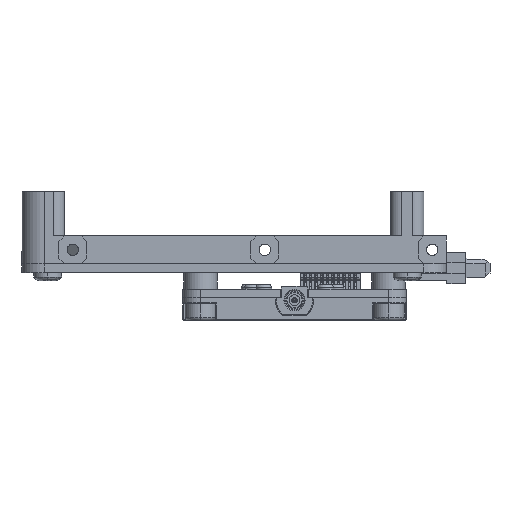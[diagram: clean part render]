
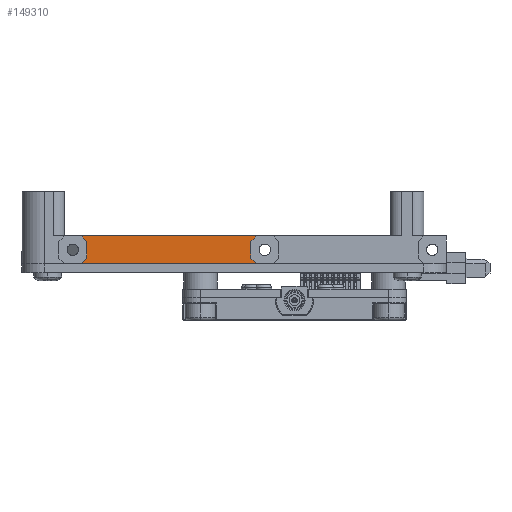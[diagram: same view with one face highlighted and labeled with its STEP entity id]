
A CAD part, left-side view. The second image highlights one B-rep face of the part: STEP entity #149310.
In plain terms, the highlighted planar face has unit normal (-1, 0, 0).
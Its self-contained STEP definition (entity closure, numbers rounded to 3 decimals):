
#2304 = PLANE ( 'NONE',  #277292 ) ;
#4595 = DIRECTION ( 'NONE',  ( 0., -0.707, -0.707 ) ) ;
#8117 = CARTESIAN_POINT ( 'NONE',  ( 0., 4.5, -30. ) ) ;
#8137 = EDGE_CURVE ( 'NONE', #224062, #128472, #215679, .T. ) ;
#28014 = VERTEX_POINT ( 'NONE', #8117 ) ;
#33194 = LINE ( 'NONE', #266915, #241473 ) ;
#40135 = DIRECTION ( 'NONE',  ( 0., -1., 0. ) ) ;
#43714 = CARTESIAN_POINT ( 'NONE',  ( 0., 3.5, -31. ) ) ;
#46805 = CARTESIAN_POINT ( 'NONE',  ( 0., 0.5, -60.4 ) ) ;
#57274 = EDGE_CURVE ( 'NONE', #77213, #224062, #79603, .T. ) ;
#60526 = CARTESIAN_POINT ( 'NONE',  ( 0., 0.5, -31. ) ) ;
#61092 = VECTOR ( 'NONE', #40135, 1000. ) ;
#69788 = DIRECTION ( 'NONE',  ( 0., 0., 1. ) ) ;
#77213 = VERTEX_POINT ( 'NONE', #253280 ) ;
#79603 = LINE ( 'NONE', #190762, #61092 ) ;
#82155 = ORIENTED_EDGE ( 'NONE', *, *, #247453, .F. ) ;
#85602 = VERTEX_POINT ( 'NONE', #141538 ) ;
#86167 = ORIENTED_EDGE ( 'NONE', *, *, #8137, .T. ) ;
#88993 = CARTESIAN_POINT ( 'NONE',  ( 0., 0.5, -60.4 ) ) ;
#90146 = EDGE_CURVE ( 'NONE', #172430, #138492, #274386, .T. ) ;
#96490 = DIRECTION ( 'NONE',  ( 0., -0.707, 0.707 ) ) ;
#99801 = CARTESIAN_POINT ( 'NONE',  ( 0., 0., -31. ) ) ;
#107008 = ORIENTED_EDGE ( 'NONE', *, *, #257226, .T. ) ;
#109882 = LINE ( 'NONE', #43714, #214083 ) ;
#122249 = CARTESIAN_POINT ( 'NONE',  ( 0., -0.5, 0. ) ) ;
#122593 = CARTESIAN_POINT ( 'NONE',  ( 0., 4.5, 0. ) ) ;
#128288 = ORIENTED_EDGE ( 'NONE', *, *, #202470, .T. ) ;
#128472 = VERTEX_POINT ( 'NONE', #255620 ) ;
#129691 = DIRECTION ( 'NONE',  ( 0., 0.707, -0.707 ) ) ;
#133217 = DIRECTION ( 'NONE',  ( -1., 0., 0. ) ) ;
#138492 = VERTEX_POINT ( 'NONE', #60526 ) ;
#141034 = LINE ( 'NONE', #122593, #267006 ) ;
#141538 = CARTESIAN_POINT ( 'NONE',  ( 0., -0.5, -30. ) ) ;
#148904 = VECTOR ( 'NONE', #271611, 1000. ) ;
#149310 = ADVANCED_FACE ( 'NONE', ( #195159 ), #2304, .T. ) ;
#166275 = DIRECTION ( 'NONE',  ( 0., 0., -1. ) ) ;
#167378 = CARTESIAN_POINT ( 'NONE',  ( 0., 4.5, -61.4 ) ) ;
#169921 = ORIENTED_EDGE ( 'NONE', *, *, #57274, .T. ) ;
#172430 = VERTEX_POINT ( 'NONE', #190988 ) ;
#173335 = LINE ( 'NONE', #259123, #213258 ) ;
#174798 = ORIENTED_EDGE ( 'NONE', *, *, #195686, .T. ) ;
#181744 = EDGE_LOOP ( 'NONE', ( #174798, #198598, #169921, #86167, #82155, #107008, #233746, #128288 ) ) ;
#190762 = CARTESIAN_POINT ( 'NONE',  ( 0., 0., -60.4 ) ) ;
#190988 = CARTESIAN_POINT ( 'NONE',  ( 0., 3.5, -31. ) ) ;
#195159 = FACE_OUTER_BOUND ( 'NONE', #181744, .T. ) ;
#195686 = EDGE_CURVE ( 'NONE', #28014, #234351, #141034, .T. ) ;
#198598 = ORIENTED_EDGE ( 'NONE', *, *, #252165, .T. ) ;
#200767 = VECTOR ( 'NONE', #208077, 1000. ) ;
#202470 = EDGE_CURVE ( 'NONE', #172430, #28014, #109882, .T. ) ;
#203450 = CARTESIAN_POINT ( 'NONE',  ( 0., 4., 0. ) ) ;
#208077 = DIRECTION ( 'NONE',  ( 0., 0., -1. ) ) ;
#213258 = VECTOR ( 'NONE', #129691, 1000. ) ;
#214083 = VECTOR ( 'NONE', #263242, 1000. ) ;
#215679 = LINE ( 'NONE', #46805, #235536 ) ;
#224062 = VERTEX_POINT ( 'NONE', #88993 ) ;
#233746 = ORIENTED_EDGE ( 'NONE', *, *, #90146, .F. ) ;
#234351 = VERTEX_POINT ( 'NONE', #167378 ) ;
#235536 = VECTOR ( 'NONE', #4595, 1000. ) ;
#241473 = VECTOR ( 'NONE', #96490, 1000. ) ;
#247453 = EDGE_CURVE ( 'NONE', #85602, #128472, #250346, .T. ) ;
#250346 = LINE ( 'NONE', #122249, #200767 ) ;
#252165 = EDGE_CURVE ( 'NONE', #234351, #77213, #33194, .T. ) ;
#253280 = CARTESIAN_POINT ( 'NONE',  ( 0., 3.5, -60.4 ) ) ;
#255620 = CARTESIAN_POINT ( 'NONE',  ( 0., -0.5, -61.4 ) ) ;
#257226 = EDGE_CURVE ( 'NONE', #85602, #138492, #173335, .T. ) ;
#259123 = CARTESIAN_POINT ( 'NONE',  ( 0., -0.5, -30. ) ) ;
#263242 = DIRECTION ( 'NONE',  ( 0., 0.707, 0.707 ) ) ;
#266915 = CARTESIAN_POINT ( 'NONE',  ( 0., 4.5, -61.4 ) ) ;
#267006 = VECTOR ( 'NONE', #166275, 1000. ) ;
#271611 = DIRECTION ( 'NONE',  ( 0., -1., 0. ) ) ;
#274386 = LINE ( 'NONE', #99801, #148904 ) ;
#277292 = AXIS2_PLACEMENT_3D ( 'NONE', #203450, #133217, #69788 ) ;
